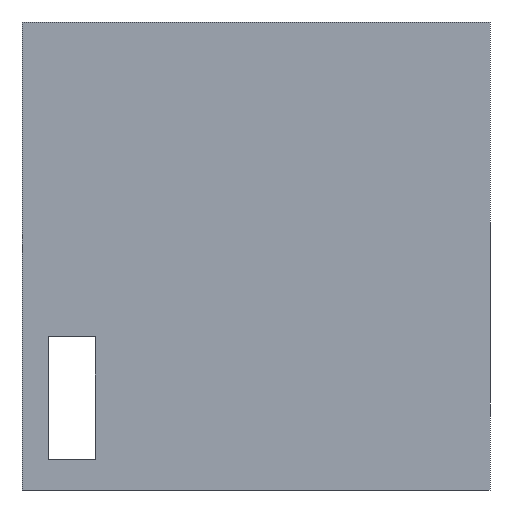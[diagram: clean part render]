
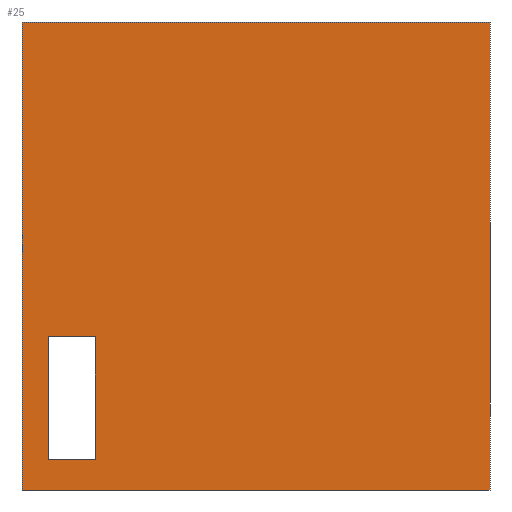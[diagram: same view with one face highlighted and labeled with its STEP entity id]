
A CAD part, front view. The second image highlights one B-rep face of the part: STEP entity #25.
In plain terms, the highlighted planar face has unit normal (0, -1, 0).
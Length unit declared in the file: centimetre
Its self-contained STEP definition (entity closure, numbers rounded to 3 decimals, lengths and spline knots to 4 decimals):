
#9 = LINE ( 'NONE', #1046, #416 ) ;
#20 = DIRECTION ( 'NONE',  ( 0., 0., 1. ) ) ;
#25 = ADVANCED_FACE ( 'NONE', ( #793, #525 ), #357, .F. ) ;
#35 = CARTESIAN_POINT ( 'NONE',  ( 56.1819, 0., 65.3245 ) ) ;
#48 = EDGE_CURVE ( 'NONE', #1055, #645, #723, .T. ) ;
#72 = DIRECTION ( 'NONE',  ( 0., 0., -1. ) ) ;
#90 = DIRECTION ( 'NONE',  ( 0., 0., -1. ) ) ;
#143 = VERTEX_POINT ( 'NONE', #159 ) ;
#150 = ORIENTED_EDGE ( 'NONE', *, *, #853, .T. ) ;
#159 = CARTESIAN_POINT ( 'NONE',  ( 156.6441, 0., 327.3225 ) ) ;
#169 = VECTOR ( 'NONE', #72, 100. ) ;
#189 = DIRECTION ( 'NONE',  ( 0., 0., 1. ) ) ;
#199 = EDGE_CURVE ( 'NONE', #1045, #696, #1090, .T. ) ;
#225 = ORIENTED_EDGE ( 'NONE', *, *, #391, .F. ) ;
#242 = VECTOR ( 'NONE', #90, 100. ) ;
#244 = CARTESIAN_POINT ( 'NONE',  ( 0., 0., 1000. ) ) ;
#259 = CARTESIAN_POINT ( 'NONE',  ( 1000., 0., 0. ) ) ;
#357 = PLANE ( 'NONE',  #459 ) ;
#375 = EDGE_CURVE ( 'NONE', #429, #1055, #453, .T. ) ;
#379 = ORIENTED_EDGE ( 'NONE', *, *, #199, .T. ) ;
#390 = ORIENTED_EDGE ( 'NONE', *, *, #570, .F. ) ;
#391 = EDGE_CURVE ( 'NONE', #1067, #813, #606, .T. ) ;
#397 = VECTOR ( 'NONE', #538, 100. ) ;
#407 = CARTESIAN_POINT ( 'NONE',  ( 0., 0., 0. ) ) ;
#416 = VECTOR ( 'NONE', #788, 100. ) ;
#429 = VERTEX_POINT ( 'NONE', #553 ) ;
#453 = LINE ( 'NONE', #865, #242 ) ;
#457 = ORIENTED_EDGE ( 'NONE', *, *, #998, .F. ) ;
#459 = AXIS2_PLACEMENT_3D ( 'NONE', #869, #702, #20 ) ;
#471 = EDGE_LOOP ( 'NONE', ( #150, #225, #937, #379 ) ) ;
#474 = VECTOR ( 'NONE', #731, 100. ) ;
#476 = CARTESIAN_POINT ( 'NONE',  ( 56.1819, 0., 327.3225 ) ) ;
#478 = VECTOR ( 'NONE', #189, 100. ) ;
#522 = CARTESIAN_POINT ( 'NONE',  ( 1000., 0., 1000. ) ) ;
#525 = FACE_OUTER_BOUND ( 'NONE', #471, .T. ) ;
#538 = DIRECTION ( 'NONE',  ( -1., 0., 0. ) ) ;
#553 = CARTESIAN_POINT ( 'NONE',  ( 56.1819, 0., 327.3225 ) ) ;
#556 = EDGE_LOOP ( 'NONE', ( #637, #1071, #390, #457 ) ) ;
#570 = EDGE_CURVE ( 'NONE', #143, #429, #986, .T. ) ;
#576 = LINE ( 'NONE', #792, #478 ) ;
#584 = DIRECTION ( 'NONE',  ( 1., 0., 0. ) ) ;
#606 = LINE ( 'NONE', #522, #632 ) ;
#631 = CARTESIAN_POINT ( 'NONE',  ( 1000., 0., 1000. ) ) ;
#632 = VECTOR ( 'NONE', #970, 100. ) ;
#637 = ORIENTED_EDGE ( 'NONE', *, *, #48, .F. ) ;
#645 = VERTEX_POINT ( 'NONE', #1089 ) ;
#665 = CARTESIAN_POINT ( 'NONE',  ( 0., 0., 1000. ) ) ;
#696 = VERTEX_POINT ( 'NONE', #407 ) ;
#702 = DIRECTION ( 'NONE',  ( 0., 1., 0. ) ) ;
#723 = LINE ( 'NONE', #35, #474 ) ;
#731 = DIRECTION ( 'NONE',  ( 1., 0., 0. ) ) ;
#735 = EDGE_CURVE ( 'NONE', #1045, #1067, #1013, .T. ) ;
#788 = DIRECTION ( 'NONE',  ( 1., 0., 0. ) ) ;
#792 = CARTESIAN_POINT ( 'NONE',  ( 156.6441, 0., 65.3245 ) ) ;
#793 = FACE_BOUND ( 'NONE', #556, .T. ) ;
#801 = VECTOR ( 'NONE', #584, 100. ) ;
#813 = VERTEX_POINT ( 'NONE', #259 ) ;
#853 = EDGE_CURVE ( 'NONE', #696, #813, #9, .T. ) ;
#865 = CARTESIAN_POINT ( 'NONE',  ( 56.1819, 0., 65.3245 ) ) ;
#869 = CARTESIAN_POINT ( 'NONE',  ( 0., 0., 1000. ) ) ;
#937 = ORIENTED_EDGE ( 'NONE', *, *, #735, .F. ) ;
#970 = DIRECTION ( 'NONE',  ( 0., 0., -1. ) ) ;
#971 = CARTESIAN_POINT ( 'NONE',  ( 0., 0., 1000. ) ) ;
#986 = LINE ( 'NONE', #476, #397 ) ;
#998 = EDGE_CURVE ( 'NONE', #645, #143, #576, .T. ) ;
#1004 = CARTESIAN_POINT ( 'NONE',  ( 56.1819, 0., 65.3245 ) ) ;
#1013 = LINE ( 'NONE', #244, #801 ) ;
#1045 = VERTEX_POINT ( 'NONE', #971 ) ;
#1046 = CARTESIAN_POINT ( 'NONE',  ( 0., 0., 0. ) ) ;
#1055 = VERTEX_POINT ( 'NONE', #1004 ) ;
#1067 = VERTEX_POINT ( 'NONE', #631 ) ;
#1071 = ORIENTED_EDGE ( 'NONE', *, *, #375, .F. ) ;
#1089 = CARTESIAN_POINT ( 'NONE',  ( 156.6441, 0., 65.3245 ) ) ;
#1090 = LINE ( 'NONE', #665, #169 ) ;
